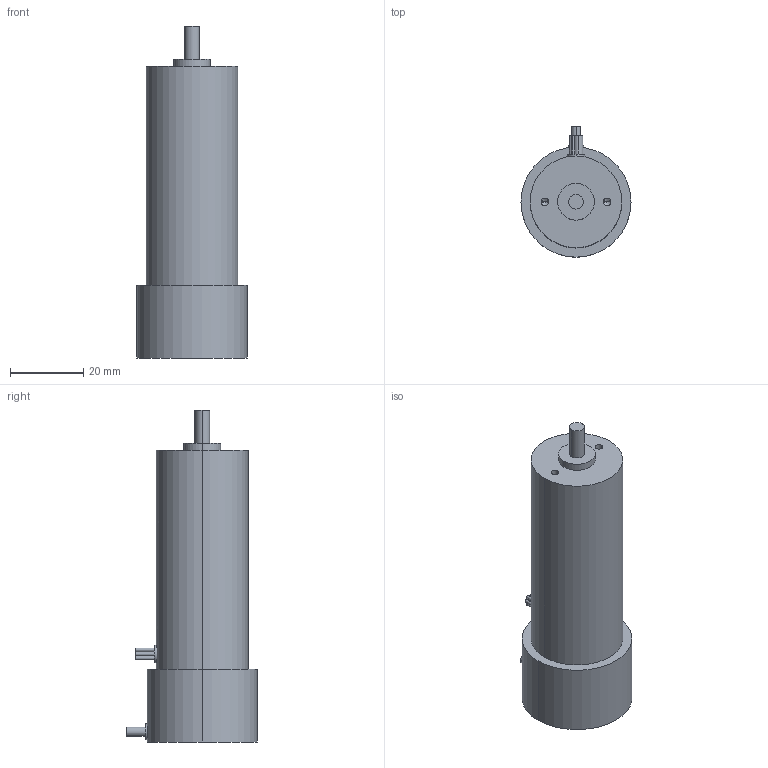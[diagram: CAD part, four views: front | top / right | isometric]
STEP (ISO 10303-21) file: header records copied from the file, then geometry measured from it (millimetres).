
FILE_DESCRIPTION (( 'STEP AP214' ), '1' );
FILE_NAME ('EA-2580.STEP', '2024-10-25T02:33:45', ( '' ), ( '' ), 'SwSTEP 2.0', 'SolidWorks 2024', '' );
FILE_SCHEMA (( 'AUTOMOTIVE_DESIGN' ));
Length unit declared in the file: millimetre
Products named in the file (1): EA-2580
Bounding box: 30 x 35.6 x 90.5 mm (x, y, z)
Volume: 43610.1 mm3; surface area: 8370.7 mm2
Topology: 1 solids, 1 shells, 42 faces, 86 edges, 54 vertices
Faces by surface type: cylinder 26, plane 12, cone 4
Entity records: 1227 total; most frequent: CARTESIAN_POINT 293, DIRECTION 212, ORIENTED_EDGE 164, AXIS2_PLACEMENT_3D 91, EDGE_CURVE 82, EDGE_LOOP 54, VERTEX_POINT 54, CIRCLE 48
